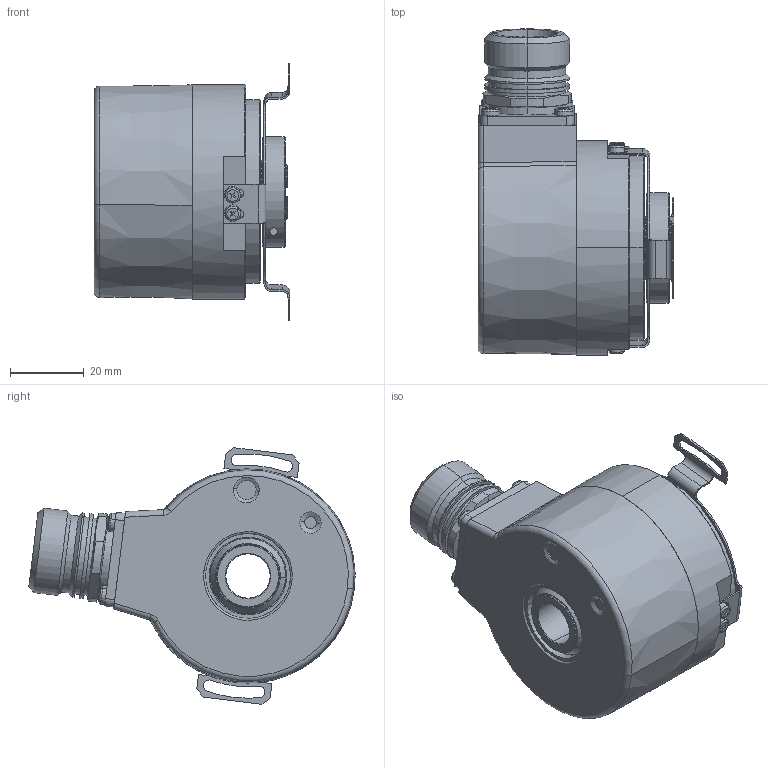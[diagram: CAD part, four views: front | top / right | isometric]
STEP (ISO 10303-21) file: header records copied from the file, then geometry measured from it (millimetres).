
FILE_DESCRIPTION (( 'STEP AP214' ), '1' );
FILE_NAME ('5873.5424.XXXX.STEP', '2008-05-29T05:45:31', ( 'admin' ), ( 'Fritz Kübler GmbH' ), 'SwSTEP 2.0', 'SolidWorks 2007', '' );
FILE_SCHEMA (( 'AUTOMOTIVE_DESIGN' ));
Length unit declared in the file: millimetre
Products named in the file (1): 5873.5424.XXXX
Bounding box: 52.97 x 88.28 x 69.44 mm (x, y, z)
Surface area: 29677.6 mm2 (no closed solid volume)
Topology: 0 solids, 44 shells, 533 faces, 1485 edges, 959 vertices
Faces by surface type: cylinder 203, plane 201, cone 59, torus 34, sphere 32, bspline 4
Entity records: 23270 total; most frequent: CARTESIAN_POINT 3537, DIRECTION 3153, ORIENTED_EDGE 2588, EDGE_CURVE 1461, AXIS2_PLACEMENT_3D 1237, VERTEX_POINT 959, CIRCLE 707, VECTOR 679
